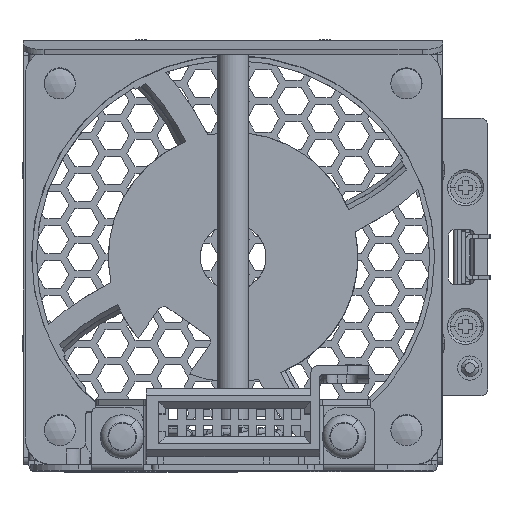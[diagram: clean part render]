
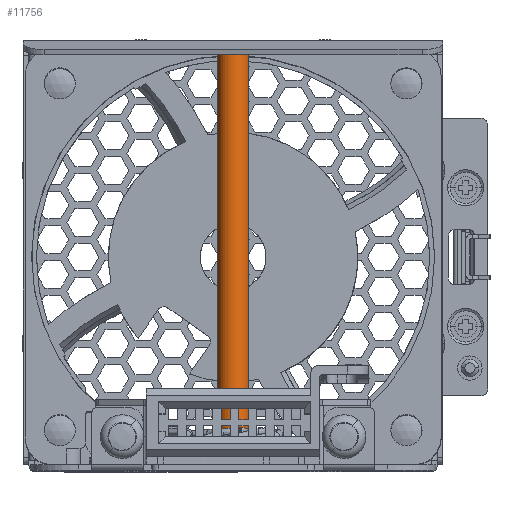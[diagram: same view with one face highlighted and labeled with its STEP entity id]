
A CAD part, top view. The second image highlights one B-rep face of the part: STEP entity #11756.
In plain terms, the highlighted cylindrical face has radius 2.25 mm (diameter 4.5 mm), a partial arc.
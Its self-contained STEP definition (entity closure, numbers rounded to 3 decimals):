
#11565=CARTESIAN_POINT('',(102.75,0.35,-272.1));
#11566=DIRECTION('',(0.,-1.,0.));
#11567=DIRECTION('',(1.,0.,0.));
#11568=AXIS2_PLACEMENT_3D('',#11565,#11566,#11567);
#11573=DIRECTION('',(0.,1.,0.));
#11574=VECTOR('',#11573,60.85);
#11575=CARTESIAN_POINT('',(100.5,0.35,-272.1));
#11576=LINE('',#11575,#11574);
#11580=DIRECTION('',(0.,1.,0.));
#11581=VECTOR('',#11580,60.85);
#11582=CARTESIAN_POINT('',(105.,0.35,-272.1));
#11583=LINE('',#11582,#11581);
#11595=CARTESIAN_POINT('',(102.75,61.2,-272.1));
#11596=DIRECTION('',(0.,1.,0.));
#11597=DIRECTION('',(-1.,0.,0.));
#11598=AXIS2_PLACEMENT_3D('',#11595,#11596,#11597);
#11653=CARTESIAN_POINT('',(105.,0.35,-272.1));
#11654=CARTESIAN_POINT('',(100.5,0.35,-272.1));
#11655=VERTEX_POINT('',#11653);
#11656=VERTEX_POINT('',#11654);
#11661=CARTESIAN_POINT('',(100.5,61.2,-272.1));
#11662=CARTESIAN_POINT('',(105.,61.2,-272.1));
#11663=VERTEX_POINT('',#11661);
#11664=VERTEX_POINT('',#11662);
#11744=CARTESIAN_POINT('',(102.75,0.05,-272.1));
#11745=DIRECTION('',(0.,-1.,0.));
#11746=DIRECTION('',(1.,0.,0.));
#11747=AXIS2_PLACEMENT_3D('',#11744,#11745,#11746);
#11748=CYLINDRICAL_SURFACE('',#11747,2.25);
#11749=ORIENTED_EDGE('',*,*,#11735,.F.);
#11750=ORIENTED_EDGE('',*,*,#11724,.T.);
#11751=ORIENTED_EDGE('',*,*,#11739,.T.);
#11753=ORIENTED_EDGE('',*,*,#11752,.T.);
#11754=EDGE_LOOP('',(#11749,#11750,#11751,#11753));
#11755=FACE_OUTER_BOUND('',#11754,.F.);
#11569=CIRCLE('',#11568,2.25);
#11599=CIRCLE('',#11598,2.25);
#11724=EDGE_CURVE('',#11655,#11656,#11569,.T.);
#11735=EDGE_CURVE('',#11655,#11664,#11583,.T.);
#11739=EDGE_CURVE('',#11656,#11663,#11576,.T.);
#11752=EDGE_CURVE('',#11663,#11664,#11599,.T.);
#11756=ADVANCED_FACE('',(#11755),#11748,.T.);
